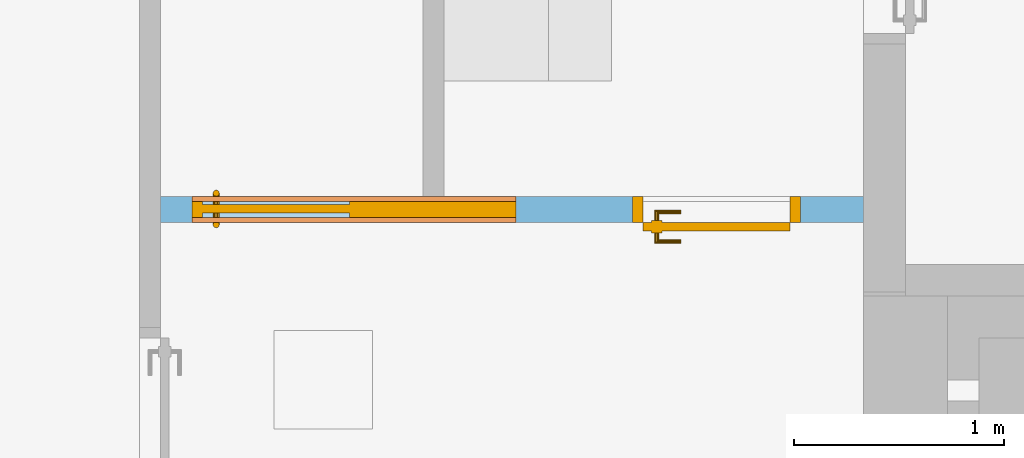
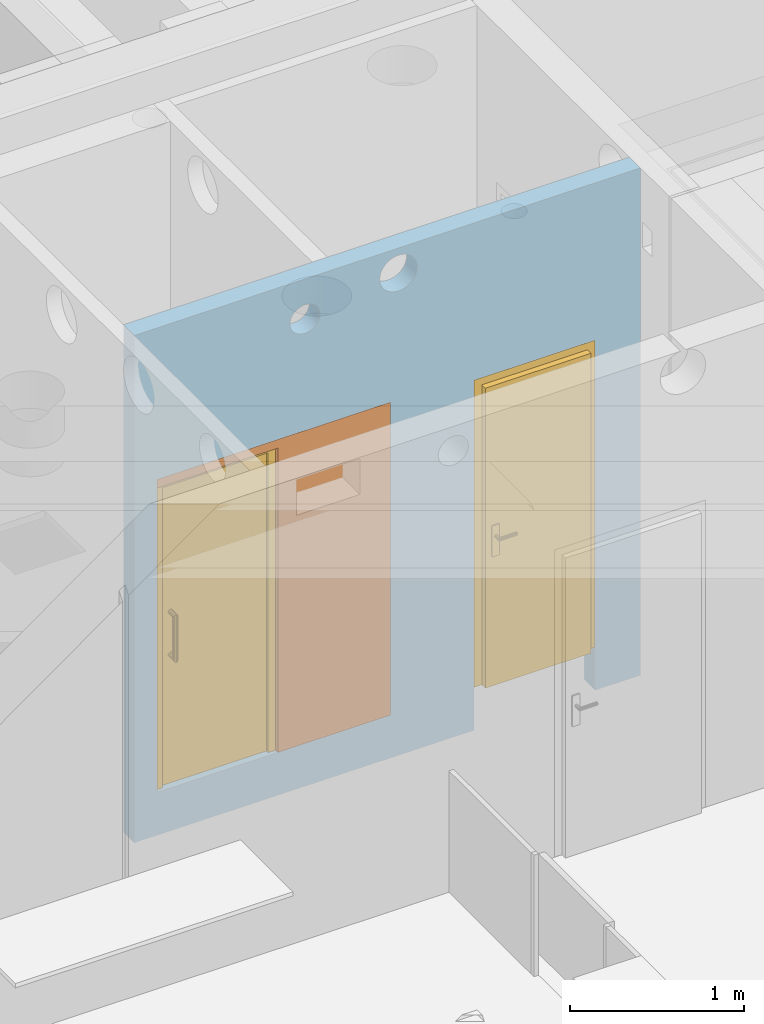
# One storey, part 72 of 140: 2 doors, 1 proxy, 4 openings, plus 1 element that does not belong to this part.
"""IFC4 building model written with IfcOpenShell, lengths in metres."""

from ifc_helpers import new_model, entity, si_unit, converted_unit, derived_unit, frame, frame_2d, origin, origin_with_axes, place, context, subcontext, project, spatial, polyline, rectangle, outline, extrude, closed_shell, open_shell, faceted_brep, surface_model, source, transform, mapped, material, layer, layer_set, layer_usage, type_object, element, fill, save


model = new_model("IFC4")

# Units and contexts
model_context = context("Model", 3, precision=1e-05, world=origin())
body_context = subcontext(model_context, "Body", "Model", "MODEL_VIEW")
ifc_project = project(units=[si_unit("LENGTHUNIT", "METRE"), si_unit("AREAUNIT", "SQUARE_METRE"), si_unit("VOLUMEUNIT", "CUBIC_METRE"), si_unit("MASSUNIT", "GRAM", prefix="KILO"), converted_unit("PLANEANGLEUNIT", "DEGREE", entity("IfcPlaneAngleMeasure", 0.0174532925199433), si_unit("PLANEANGLEUNIT", "RADIAN"), dimensions=[0, 0, 0, 0, 0, 0, 0]), derived_unit("THERMALTRANSMITTANCEUNIT", [(si_unit("POWERUNIT", "WATT"), 1), (si_unit("THERMODYNAMICTEMPERATUREUNIT", "KELVIN"), -1), (si_unit("LENGTHUNIT", "METRE"), -2)]), derived_unit("VOLUMETRICFLOWRATEUNIT", [(si_unit("LENGTHUNIT", "METRE"), 3), (converted_unit("TIMEUNIT", "hour", entity("IfcTimeMeasure", 3600.0), si_unit("TIMEUNIT", "SECOND"), dimensions=[0, 0, 1, 0, 0, 0, 0]), -1), (si_unit("LENGTHUNIT", "METRE"), -1)])], contexts=[model_context])

# Site, building, storey
site_placement = place(None, origin())
site = spatial("IfcSite", under=ifc_project, at=site_placement, Name="3. ASŘ", CompositionType="ELEMENT")
building_placement = place(site_placement, origin())
building = spatial("IfcBuilding", under=site, at=building_placement, Name="Pavilon C", CompositionType="ELEMENT")
storey_placement = place(building_placement, origin())
storey = spatial("IfcBuildingStorey", under=building, at=storey_placement, Name="Půdorys 1.NP", CompositionType="ELEMENT", Elevation=0.0)

# Wall, openings, doors, proxy
ifc_material_1 = material(Name="SDK - 1 KCE + DVOJITÉ OPLÁŠTĚNÍ")
ifc_layer = layer(ifc_material_1, 0.125)
ifc_layer_set = layer_set([ifc_layer])
ifc_layer_usage = layer_usage(ifc_layer_set, "AXIS2", "POSITIVE", 0.0)
wall_placement = place(storey_placement, frame((36.8, -6.325, -0.3), z_axis=(0.0, 0.0, 1.0), x_axis=(-1.0, 0.0, 0.0)))
wall = element("IfcWall", 1, at=wall_placement, inside=storey, material=ifc_layer_usage, Name="SDK - 1 KCE + DVOJITÉ OPLÁŠTĚNÍ", context=body_context, shape_type="SweptSolid", body=[
    extrude(rectangle(XDim=3.35, YDim=0.125, at=frame_2d((1.675, 0.0625), x_axis=(1.0, 0.0))), origin_with_axes(), (0.0, 0.0, 1.0), 3.55),
])
opening_1_placement = place(wall_placement, frame((1.1, 0.125, 0.0), z_axis=(0.0, -1.0, 0.0), x_axis=(0.0, 0.0, 1.0)))
opening_1 = element("IfcOpeningElement", 2, at=opening_1_placement, cuts=wall, Name="Dveřní otvor", ObjectType="Opening", context=body_context, shape_type="SweptSolid", body=[
    extrude(outline(polyline([(0.0, 0.8), (2.45, 0.8), (2.45, 0.0), (0.0, 0.0), (0.0, 0.8)])), origin_with_axes(), (0.0, 0.0, 1.0), 0.125),
])
opening_2_placement = place(wall_placement, frame((3.2, 0.125, 0.3), z_axis=(0.0, -1.0, 0.0), x_axis=(0.0, 0.0, 1.0)))
opening_2 = element("IfcOpeningElement", 3, at=opening_2_placement, cuts=wall, Name="Dveřní otvor", ObjectType="Opening", context=body_context, shape_type="SweptSolid", body=[
    extrude(outline(polyline([(0.0, 1.545), (2.19, 1.545), (2.19, 0.0), (0.0, 0.0), (0.0, 1.545)])), origin_with_axes(), (0.0, 0.0, 1.0), 0.125),
])
opening_3_placement = place(wall_placement, frame((2.32, 0.125, 3.17), z_axis=(0.0, -1.0, 0.0), x_axis=(0.0, 0.0, 1.0)))
element("IfcOpeningElement", 4, at=opening_3_placement, cuts=wall, Name="ZTI", ObjectType="Opening", context=body_context, shape_type="SweptSolid", body=[
    extrude(outline(polyline([(0.1, 0.0), (0.0895471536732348, 0.000547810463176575), (0.0792088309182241, 0.00218523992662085), (0.0690983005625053, 0.00489434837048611), (0.0593263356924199, 0.00864545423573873), (0.05, 0.0133974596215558), (0.0412214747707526, 0.0190983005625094), (0.0330869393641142, 0.025685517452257), (0.0256855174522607, 0.0330869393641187), (0.0190983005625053, 0.0412214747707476), (0.0133974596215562, 0.05), (0.00864545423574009, 0.0593263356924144), (0.00489434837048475, 0.0690983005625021), (0.00218523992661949, 0.0792088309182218), (0.000547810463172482, 0.0895471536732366), (0.0, 0.1), (0.000547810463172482, 0.110452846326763), (0.00218523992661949, 0.120791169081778), (0.00489434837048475, 0.130901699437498), (0.00864545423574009, 0.140673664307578), (0.0133974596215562, 0.15), (0.0190983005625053, 0.158778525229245), (0.0256855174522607, 0.166913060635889), (0.0330869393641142, 0.174314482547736), (0.0412214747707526, 0.180901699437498), (0.05, 0.186602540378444), (0.0593263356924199, 0.191354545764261), (0.0690983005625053, 0.195105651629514), (0.0792088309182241, 0.197814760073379), (0.0895471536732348, 0.199452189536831), (0.1, 0.2), (0.110452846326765, 0.199452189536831), (0.120791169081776, 0.197814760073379), (0.130901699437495, 0.195105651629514), (0.14067366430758, 0.191354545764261), (0.15, 0.186602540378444), (0.158778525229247, 0.180901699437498), (0.166913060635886, 0.174314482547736), (0.174314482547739, 0.166913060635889), (0.180901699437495, 0.158778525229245), (0.186602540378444, 0.15), (0.19135454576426, 0.140673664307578), (0.195105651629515, 0.130901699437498), (0.197814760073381, 0.120791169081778), (0.199452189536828, 0.110452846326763), (0.2, 0.1), (0.199452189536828, 0.0895471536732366), (0.197814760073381, 0.0792088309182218), (0.195105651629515, 0.0690983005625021), (0.19135454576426, 0.0593263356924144), (0.186602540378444, 0.05), (0.180901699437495, 0.0412214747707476), (0.174314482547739, 0.0330869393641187), (0.166913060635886, 0.025685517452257), (0.158778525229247, 0.0190983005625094), (0.15, 0.0133974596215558), (0.14067366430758, 0.00864545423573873), (0.130901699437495, 0.00489434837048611), (0.120791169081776, 0.00218523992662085), (0.110452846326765, 0.000547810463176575), (0.1, 0.0)])), origin_with_axes(), (0.0, 0.0, 1.0), 0.125),
])
opening_4_placement = place(wall_placement, frame((1.72567356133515, 0.125, 3.25), z_axis=(0.0, -1.0, 0.0), x_axis=(0.0, 0.0, 1.0)))
element("IfcOpeningElement", 5, at=opening_4_placement, cuts=wall, Name="VZT", ObjectType="Opening", context=body_context, shape_type="SweptSolid", body=[
    extrude(outline(polyline([(0.125, 0.0), (0.111933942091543, 0.000684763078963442), (0.09901103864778, 0.00273154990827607), (0.0863728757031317, 0.00611793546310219), (0.0741579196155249, 0.010806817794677), (0.0625, 0.0167468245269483), (0.0515268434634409, 0.0238728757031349), (0.041358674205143, 0.0321068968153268), (0.0321068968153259, 0.0413586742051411), (0.0238728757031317, 0.0515268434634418), (0.0167468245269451, 0.0625), (0.0108068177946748, 0.0741579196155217), (0.00611793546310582, 0.0863728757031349), (0.00273154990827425, 0.0990110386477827), (0.000684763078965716, 0.111933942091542), (0.0, 0.125), (0.000684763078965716, 0.138066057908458), (0.00273154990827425, 0.150988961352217), (0.00611793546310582, 0.163627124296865), (0.0108068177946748, 0.175842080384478), (0.0167468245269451, 0.1875), (0.0238728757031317, 0.198473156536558), (0.0321068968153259, 0.208641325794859), (0.0413586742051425, 0.217893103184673), (0.0515268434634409, 0.226127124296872), (0.0625, 0.233253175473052), (0.0741579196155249, 0.239193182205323), (0.0863728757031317, 0.243882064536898), (0.09901103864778, 0.247268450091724), (0.111933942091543, 0.249315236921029), (0.125, 0.25), (0.138066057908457, 0.249315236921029), (0.15098896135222, 0.247268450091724), (0.163627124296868, 0.243882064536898), (0.175842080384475, 0.239193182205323), (0.1875, 0.233253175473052), (0.198473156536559, 0.226127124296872), (0.208641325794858, 0.217893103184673), (0.217893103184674, 0.208641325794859), (0.226127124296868, 0.198473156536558), (0.233253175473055, 0.1875), (0.239193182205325, 0.175842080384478), (0.243882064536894, 0.163627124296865), (0.247268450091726, 0.150988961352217), (0.249315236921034, 0.138066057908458), (0.25, 0.125), (0.249315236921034, 0.111933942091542), (0.247268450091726, 0.0990110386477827), (0.243882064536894, 0.0863728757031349), (0.239193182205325, 0.0741579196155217), (0.233253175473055, 0.0625), (0.226127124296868, 0.0515268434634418), (0.217893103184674, 0.0413586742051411), (0.208641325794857, 0.0321068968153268), (0.198473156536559, 0.0238728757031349), (0.1875, 0.0167468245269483), (0.175842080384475, 0.010806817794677), (0.163627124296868, 0.00611793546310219), (0.15098896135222, 0.00273154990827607), (0.138066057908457, 0.000684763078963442), (0.125, 0.0)])), origin_with_axes(), (0.0, 0.0, 1.0), 0.125),
])
door_type_1 = type_object("IfcDoorType", Name="II.D03", OperationType="NOTDEFINED", ParameterTakesPrecedence=False, PredefinedType="DOOR")
shared_shape_1 = source(origin_with_axes(), body_context, "Body", "SurfaceModel", [
    surface_model("IfcShellBasedSurfaceModel", [(0.0, 0.125, 2.149), (0.0, 0.125, -5.6843418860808e-17), (0.05, 0.125, -5.6843418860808e-17), (0.05, 0.125, 2.149), (0.0, 0.0, -5.6843418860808e-17), (0.0, 2.70006239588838e-16, 2.149), (0.05, 2.70006239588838e-16, 2.149), (0.05, 0.0, -5.6843418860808e-17)], [closed_shell([[[0, 1, 2, 3]], [[4, 5, 6, 7]], [[1, 0, 5, 4]], [[2, 1, 4, 7]], [[3, 2, 7, 6]], [[0, 3, 6, 5]]], orient=[[False], [False], [False], [False], [False], [False]])]),
    surface_model("IfcShellBasedSurfaceModel", [(0.75, 0.125, 2.149), (0.75, 0.125, -5.6843418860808e-17), (0.8, 0.125, -5.6843418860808e-17), (0.8, 0.125, 2.149), (0.75, 0.0, -5.6843418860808e-17), (0.75, 2.70006239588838e-16, 2.149), (0.8, 2.70006239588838e-16, 2.149), (0.8, 0.0, -5.6843418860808e-17)], [closed_shell([[[0, 1, 2, 3]], [[4, 5, 6, 7]], [[1, 0, 5, 4]], [[2, 1, 4, 7]], [[3, 2, 7, 6]], [[0, 3, 6, 5]]], orient=[[False], [False], [False], [False], [False], [False]])]),
    surface_model("IfcShellBasedSurfaceModel", [(0.05, 0.125, 2.149), (0.05, 0.125, 2.099), (0.75, 0.125, 2.099), (0.75, 0.125, 2.149), (0.05, 2.55795384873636e-16, 2.099), (0.05, 2.55795384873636e-16, 2.149), (0.75, 2.55795384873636e-16, 2.149), (0.75, 2.55795384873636e-16, 2.099)], [closed_shell([[[0, 1, 2, 3]], [[4, 5, 6, 7]], [[1, 0, 5, 4]], [[2, 1, 4, 7]], [[3, 2, 7, 6]], [[0, 3, 6, 5]]], orient=[[False], [False], [False], [False], [False], [False]])]),
    surface_model("IfcShellBasedSurfaceModel", [(0.05, 0.165, 2.099), (0.05, 0.165, -5.6843418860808e-17), (0.75, 0.165, -5.6843418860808e-17), (0.75, 0.165, 2.099), (0.05, 0.125, -5.6843418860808e-17), (0.05, 0.125, 2.099), (0.75, 0.125, 2.099), (0.75, 0.125, -5.6843418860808e-17)], [closed_shell([[[0, 1, 2, 3]], [[4, 5, 6, 7]], [[1, 0, 5, 4]], [[2, 1, 4, 7]], [[3, 2, 7, 6]], [[0, 3, 6, 5]]], orient=[[False], [False], [False], [False], [False], [False]])]),
    surface_model("IfcShellBasedSurfaceModel", [(0.66, 0.125, 1.125), (0.66, 0.125, 0.91), (0.71, 0.125, 0.91), (0.71, 0.125, 1.125), (0.66, 0.115, 0.91), (0.66, 0.115, 1.125), (0.71, 0.115, 1.125), (0.71, 0.115, 0.91)], [closed_shell([[[0, 1, 2, 3]], [[4, 5, 6, 7]], [[1, 0, 5, 4]], [[2, 1, 4, 7]], [[3, 2, 7, 6]], [[0, 3, 6, 5]]], orient=[[False], [False], [False], [False], [False], [False]])]),
    surface_model("IfcShellBasedSurfaceModel", [(0.685, 0.115, 1.06), (0.68, 0.115, 1.05866025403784), (0.676339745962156, 0.115, 1.055), (0.675, 0.115, 1.05), (0.676339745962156, 0.115, 1.045), (0.68, 0.115, 1.04133974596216), (0.685, 0.115, 1.04), (0.69, 0.115, 1.04133974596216), (0.693660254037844, 0.115, 1.045), (0.695, 0.115, 1.05), (0.693660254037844, 0.115, 1.055), (0.69, 0.115, 1.05866025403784), (0.69, 0.0700000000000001, 1.05866025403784), (0.685, 0.0750000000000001, 1.06), (0.693660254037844, 0.0663397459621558, 1.055), (0.695, 0.0650000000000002, 1.05), (0.693660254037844, 0.0663397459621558, 1.045), (0.69, 0.0700000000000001, 1.04133974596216), (0.685, 0.0750000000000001, 1.04), (0.68, 0.0800000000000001, 1.04133974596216), (0.676339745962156, 0.0836602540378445, 1.045), (0.675, 0.0850000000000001, 1.05), (0.676339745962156, 0.0836602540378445, 1.055), (0.68, 0.0800000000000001, 1.05866025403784), (0.57, 0.0700000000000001, 1.05866025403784), (0.57, 0.0750000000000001, 1.06), (0.57, 0.0663397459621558, 1.055), (0.57, 0.0650000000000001, 1.05), (0.57, 0.0663397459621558, 1.045), (0.57, 0.0700000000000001, 1.04133974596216), (0.57, 0.0750000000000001, 1.04), (0.57, 0.0800000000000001, 1.04133974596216), (0.57, 0.0836602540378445, 1.045), (0.57, 0.0850000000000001, 1.05), (0.57, 0.0836602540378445, 1.055), (0.57, 0.0800000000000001, 1.05866025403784)], [open_shell([[[0, 1, 2, 3, 4, 5, 6, 7, 8, 9, 10, 11]], [[0, 11, 12, 13]], [[11, 10, 14, 12]], [[10, 9, 15, 14]], [[9, 8, 16, 15]], [[8, 7, 17, 16]], [[7, 6, 18, 17]], [[6, 5, 19, 18]], [[5, 4, 20, 19]], [[4, 3, 21, 20]], [[3, 2, 22, 21]], [[2, 1, 23, 22]], [[1, 0, 13, 23]], [[13, 12, 24, 25]], [[12, 14, 26, 24]], [[14, 15, 27, 26]], [[15, 16, 28, 27]], [[16, 17, 29, 28]], [[17, 18, 30, 29]], [[18, 19, 31, 30]], [[19, 20, 32, 31]], [[20, 21, 33, 32]], [[21, 22, 34, 33]], [[22, 23, 35, 34]], [[23, 13, 25, 35]]], orient=[[False], [False], [False], [False], [False], [False], [False], [False], [False], [False], [False], [False], [False], [False], [False], [False], [False], [False], [False], [False], [False], [False], [False], [False], [False]])]),
    surface_model("IfcShellBasedSurfaceModel", [(0.66, 0.165, 1.125), (0.71, 0.165, 1.125), (0.71, 0.165, 0.91), (0.66, 0.165, 0.91), (0.66, 0.175, 0.91), (0.71, 0.175, 0.91), (0.71, 0.175, 1.125), (0.66, 0.175, 1.125)], [closed_shell([[[0, 1, 2, 3]], [[4, 5, 6, 7]], [[3, 4, 7, 0]], [[2, 5, 4, 3]], [[1, 6, 5, 2]], [[0, 7, 6, 1]]], orient=[[False], [False], [False], [False], [False], [False]])]),
    surface_model("IfcShellBasedSurfaceModel", [(0.685, 0.175, 1.06), (0.69, 0.175, 1.05866025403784), (0.693660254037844, 0.175, 1.055), (0.695, 0.175, 1.05), (0.693660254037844, 0.175, 1.045), (0.69, 0.175, 1.04133974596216), (0.685, 0.175, 1.04), (0.68, 0.175, 1.04133974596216), (0.676339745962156, 0.175, 1.045), (0.675, 0.175, 1.05), (0.676339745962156, 0.175, 1.055), (0.68, 0.175, 1.05866025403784), (0.685, 0.215, 1.06), (0.69, 0.22, 1.05866025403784), (0.693660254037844, 0.223660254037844, 1.055), (0.695, 0.225, 1.05), (0.693660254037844, 0.223660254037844, 1.045), (0.69, 0.22, 1.04133974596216), (0.685, 0.215, 1.04), (0.68, 0.21, 1.04133974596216), (0.676339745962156, 0.206339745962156, 1.045), (0.675, 0.205, 1.05), (0.676339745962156, 0.206339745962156, 1.055), (0.68, 0.21, 1.05866025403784), (0.57, 0.215, 1.06), (0.57, 0.22, 1.05866025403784), (0.57, 0.223660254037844, 1.055), (0.57, 0.225, 1.05), (0.57, 0.223660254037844, 1.045), (0.57, 0.22, 1.04133974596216), (0.57, 0.215, 1.04), (0.57, 0.21, 1.04133974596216), (0.57, 0.206339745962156, 1.045), (0.57, 0.205, 1.05), (0.57, 0.206339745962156, 1.055), (0.57, 0.21, 1.05866025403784)], [open_shell([[[0, 1, 2, 3, 4, 5, 6, 7, 8, 9, 10, 11]], [[0, 12, 13, 1]], [[1, 13, 14, 2]], [[2, 14, 15, 3]], [[3, 15, 16, 4]], [[4, 16, 17, 5]], [[5, 17, 18, 6]], [[6, 18, 19, 7]], [[7, 19, 20, 8]], [[8, 20, 21, 9]], [[9, 21, 22, 10]], [[10, 22, 23, 11]], [[11, 23, 12, 0]], [[12, 24, 25, 13]], [[13, 25, 26, 14]], [[14, 26, 27, 15]], [[15, 27, 28, 16]], [[16, 28, 29, 17]], [[17, 29, 30, 18]], [[18, 30, 31, 19]], [[19, 31, 32, 20]], [[20, 32, 33, 21]], [[21, 33, 34, 22]], [[22, 34, 35, 23]], [[23, 35, 24, 12]]], orient=[[False], [False], [False], [False], [False], [False], [False], [False], [False], [False], [False], [False], [False], [False], [False], [False], [False], [False], [False], [False], [False], [False], [False], [False], [False]])]),
])
door_1_placement = place(opening_1_placement, frame((0.301, 0.8, 0.125), z_axis=(1.0, 0.0, 0.0), x_axis=(0.0, -1.0, 1.22464679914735e-16)))
door_1 = element("IfcDoor", 6, at=door_1_placement, inside=storey, type_object=door_type_1, Name="II.D03", OverallHeight=2.45, OverallWidth=0.8, context=body_context, shape_type="MappedRepresentation", body=[
    mapped(shared_shape_1, transform((0.0, 0.0, 0.0), x_axis=(1.0, 0.0, 0.0), y_axis=(0.0, 1.0, 0.0), z_axis=(0.0, 0.0, 1.0), scale=1.0)),
])
fill(opening_1, door_1)
door_type_2 = type_object("IfcDoorType", Name="II.DP02", OperationType="NOTDEFINED", ParameterTakesPrecedence=False, PredefinedType="DOOR")
shared_shape_2 = source(origin_with_axes(), body_context, "Body", "SurfaceModel", [
    surface_model("IfcShellBasedSurfaceModel", [(0.0, 0.13, 2.19), (0.0, 0.13, -4.59242549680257e-18), (0.795, 0.13, -4.59242549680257e-18), (0.795, 0.13, 2.19), (0.0, 0.0549999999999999, 4.59242549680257e-18), (0.0, 0.0550000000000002, 2.19), (0.795, 0.0550000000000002, 2.19), (0.795, 0.0549999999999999, 4.59242549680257e-18)], [closed_shell([[[0, 1, 2, 3]], [[4, 5, 6, 7]], [[1, 0, 5, 4]], [[2, 1, 4, 7]], [[3, 2, 7, 6]], [[0, 3, 6, 5]]], orient=[[False], [False], [False], [False], [False], [False]])]),
    surface_model("IfcShellBasedSurfaceModel", [(1.495, 0.13, 2.19), (1.495, 0.13, -4.59242549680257e-18), (1.545, 0.13, -4.59242549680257e-18), (1.545, 0.13, 2.19), (1.495, 0.0549999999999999, 4.59242549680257e-18), (1.495, 0.0550000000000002, 2.19), (1.545, 0.0550000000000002, 2.19), (1.545, 0.0549999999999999, 4.59242549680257e-18)], [closed_shell([[[0, 1, 2, 3]], [[4, 5, 6, 7]], [[1, 0, 5, 4]], [[2, 1, 4, 7]], [[3, 2, 7, 6]], [[0, 3, 6, 5]]], orient=[[False], [False], [False], [False], [False], [False]])]),
    surface_model("IfcShellBasedSurfaceModel", [(0.795, 0.13, 2.19), (0.795, 0.13, 2.1), (1.495, 0.13, 2.1), (1.495, 0.13, 2.19), (0.795, 0.0550000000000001, 2.1), (0.795, 0.0550000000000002, 2.19), (1.495, 0.0550000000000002, 2.19), (1.495, 0.0550000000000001, 2.1)], [closed_shell([[[0, 1, 2, 3]], [[4, 5, 6, 7]], [[1, 0, 5, 4]], [[2, 1, 4, 7]], [[3, 2, 7, 6]], [[0, 3, 6, 5]]], orient=[[False], [False], [False], [False], [False], [False]])]),
    surface_model("IfcShellBasedSurfaceModel", [(0.795, 0.11, 2.1), (0.795, 0.11, -2.14313189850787e-18), (1.495, 0.11, -2.14313189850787e-18), (1.495, 0.11, 2.1), (0.795, 0.0699999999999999, 2.75545529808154e-18), (0.795, 0.0700000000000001, 2.1), (1.495, 0.0700000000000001, 2.1), (1.495, 0.0699999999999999, 2.75545529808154e-18)], [closed_shell([[[0, 1, 2, 3]], [[4, 5, 6, 7]], [[1, 0, 5, 4]], [[2, 1, 4, 7]], [[3, 2, 7, 6]], [[0, 3, 6, 5]]], orient=[[False], [False], [False], [False], [False], [False]])]),
    surface_model("IfcShellBasedSurfaceModel", [(1.445, 0.07, 1.2), (1.44299038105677, 0.07, 1.2075), (1.4375, 0.07, 1.21299038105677), (1.43, 0.07, 1.215), (1.4225, 0.07, 1.21299038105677), (1.41700961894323, 0.07, 1.2075), (1.415, 0.07, 1.2), (1.41700961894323, 0.07, 1.1925), (1.4225, 0.07, 1.18700961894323), (1.43, 0.07, 1.185), (1.4375, 0.07, 1.18700961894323), (1.44299038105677, 0.07, 1.1925), (1.445, 0.015, 1.2), (1.44299038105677, 0.00750000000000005, 1.2075), (1.4375, 0.00200961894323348, 1.21299038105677), (1.43, 5.6843418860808e-17, 1.215), (1.4225, 0.00200961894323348, 1.21299038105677), (1.41700961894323, 0.00750000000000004, 1.2075), (1.415, 0.015, 1.2), (1.41700961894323, 0.0225, 1.1925), (1.4225, 0.0279903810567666, 1.18700961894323), (1.43, 0.03, 1.185), (1.4375, 0.0279903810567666, 1.18700961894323), (1.44299038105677, 0.0225000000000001, 1.1925), (1.445, 0.015, 0.9), (1.44299038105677, 0.0075, 0.8925), (1.4375, 0.00200961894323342, 0.887009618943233), (1.43, 0.0, 0.885), (1.4225, 0.00200961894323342, 0.887009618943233), (1.41700961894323, 0.00749999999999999, 0.8925), (1.415, 0.015, 0.9), (1.41700961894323, 0.0225, 0.9075), (1.4225, 0.0279903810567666, 0.912990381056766), (1.43, 0.03, 0.915), (1.4375, 0.0279903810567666, 0.912990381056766), (1.44299038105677, 0.0225, 0.9075), (1.445, 0.07, 0.9), (1.44299038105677, 0.07, 0.8925), (1.4375, 0.07, 0.887009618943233), (1.43, 0.07, 0.885), (1.4225, 0.07, 0.887009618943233), (1.41700961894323, 0.07, 0.8925), (1.415, 0.07, 0.9), (1.41700961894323, 0.07, 0.9075), (1.4225, 0.07, 0.912990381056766), (1.43, 0.07, 0.915), (1.4375, 0.07, 0.912990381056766), (1.44299038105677, 0.07, 0.9075)], [open_shell([[[0, 1, 2, 3, 4, 5, 6, 7, 8, 9, 10, 11]], [[0, 12, 13, 1]], [[1, 13, 14, 2]], [[2, 14, 15, 3]], [[3, 15, 16, 4]], [[4, 16, 17, 5]], [[5, 17, 18, 6]], [[6, 18, 19, 7]], [[7, 19, 20, 8]], [[8, 20, 21, 9]], [[9, 21, 22, 10]], [[10, 22, 23, 11]], [[11, 23, 12, 0]], [[12, 24, 25, 13]], [[13, 25, 26, 14]], [[14, 26, 27, 15]], [[15, 27, 28, 16]], [[16, 28, 29, 17]], [[17, 29, 30, 18]], [[18, 30, 31, 19]], [[19, 31, 32, 20]], [[20, 32, 33, 21]], [[21, 33, 34, 22]], [[22, 34, 35, 23]], [[23, 35, 24, 12]], [[24, 36, 37, 25]], [[25, 37, 38, 26]], [[26, 38, 39, 27]], [[27, 39, 40, 28]], [[28, 40, 41, 29]], [[29, 41, 42, 30]], [[30, 42, 43, 31]], [[31, 43, 44, 32]], [[32, 44, 45, 33]], [[33, 45, 46, 34]], [[34, 46, 47, 35]], [[35, 47, 36, 24]]], orient=[[False], [False], [False], [False], [False], [False], [False], [False], [False], [False], [False], [False], [False], [False], [False], [False], [False], [False], [False], [False], [False], [False], [False], [False], [False], [False], [False], [False], [False], [False], [False], [False], [False], [False], [False], [False], [False]])]),
    surface_model("IfcShellBasedSurfaceModel", [(1.445, 0.11, 1.2), (1.44299038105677, 0.11, 1.1925), (1.4375, 0.11, 1.18700961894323), (1.43, 0.11, 1.185), (1.4225, 0.11, 1.18700961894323), (1.41700961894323, 0.11, 1.1925), (1.415, 0.11, 1.2), (1.41700961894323, 0.11, 1.2075), (1.4225, 0.11, 1.21299038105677), (1.43, 0.11, 1.215), (1.4375, 0.11, 1.21299038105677), (1.44299038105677, 0.11, 1.2075), (1.44299038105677, 0.1725, 1.2075), (1.445, 0.165, 1.2), (1.4375, 0.177990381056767, 1.21299038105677), (1.43, 0.18, 1.215), (1.4225, 0.177990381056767, 1.21299038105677), (1.41700961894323, 0.1725, 1.2075), (1.415, 0.165, 1.2), (1.41700961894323, 0.1575, 1.1925), (1.4225, 0.152009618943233, 1.18700961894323), (1.43, 0.15, 1.185), (1.4375, 0.152009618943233, 1.18700961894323), (1.44299038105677, 0.1575, 1.1925), (1.44299038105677, 0.1725, 0.8925), (1.445, 0.165, 0.9), (1.4375, 0.177990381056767, 0.887009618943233), (1.43, 0.18, 0.885), (1.4225, 0.177990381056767, 0.887009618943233), (1.41700961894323, 0.1725, 0.8925), (1.415, 0.165, 0.9), (1.41700961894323, 0.1575, 0.9075), (1.4225, 0.152009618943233, 0.912990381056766), (1.43, 0.15, 0.915), (1.4375, 0.152009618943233, 0.912990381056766), (1.44299038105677, 0.1575, 0.9075), (1.44299038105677, 0.11, 0.8925), (1.445, 0.11, 0.9), (1.4375, 0.11, 0.887009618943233), (1.43, 0.11, 0.885), (1.4225, 0.11, 0.887009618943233), (1.41700961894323, 0.11, 0.8925), (1.415, 0.11, 0.9), (1.41700961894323, 0.11, 0.9075), (1.4225, 0.11, 0.912990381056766), (1.43, 0.11, 0.915), (1.4375, 0.11, 0.912990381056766), (1.44299038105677, 0.11, 0.9075)], [open_shell([[[0, 1, 2, 3, 4, 5, 6, 7, 8, 9, 10, 11]], [[0, 11, 12, 13]], [[11, 10, 14, 12]], [[10, 9, 15, 14]], [[9, 8, 16, 15]], [[8, 7, 17, 16]], [[7, 6, 18, 17]], [[6, 5, 19, 18]], [[5, 4, 20, 19]], [[4, 3, 21, 20]], [[3, 2, 22, 21]], [[2, 1, 23, 22]], [[1, 0, 13, 23]], [[13, 12, 24, 25]], [[12, 14, 26, 24]], [[14, 15, 27, 26]], [[15, 16, 28, 27]], [[16, 17, 29, 28]], [[17, 18, 30, 29]], [[18, 19, 31, 30]], [[19, 20, 32, 31]], [[20, 21, 33, 32]], [[21, 22, 34, 33]], [[22, 23, 35, 34]], [[23, 13, 25, 35]], [[25, 24, 36, 37]], [[24, 26, 38, 36]], [[26, 27, 39, 38]], [[27, 28, 40, 39]], [[28, 29, 41, 40]], [[29, 30, 42, 41]], [[30, 31, 43, 42]], [[31, 32, 44, 43]], [[32, 33, 45, 44]], [[33, 34, 46, 45]], [[34, 35, 47, 46]], [[35, 25, 37, 47]]], orient=[[False], [False], [False], [False], [False], [False], [False], [False], [False], [False], [False], [False], [False], [False], [False], [False], [False], [False], [False], [False], [False], [False], [False], [False], [False], [False], [False], [False], [False], [False], [False], [False], [False], [False], [False], [False], [False]])]),
])
door_2_placement = place(opening_2_placement, frame((0.0, 1.545, 0.155), z_axis=(1.0, 0.0, 0.0), x_axis=(0.0, -1.0, 1.22464679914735e-16)))
door_2 = element("IfcDoor", 7, at=door_2_placement, inside=storey, type_object=door_type_2, Name="II.DP02", OverallHeight=2.19, OverallWidth=1.545, context=body_context, shape_type="MappedRepresentation", body=[
    mapped(shared_shape_2, transform((0.0, 0.0, 0.0), x_axis=(1.0, 0.0, 0.0), y_axis=(0.0, 1.0, 0.0), z_axis=(0.0, 0.0, 1.0), scale=1.0)),
])
fill(opening_2, door_2)
ifc_material_2 = material(Name="SDK - 1 KCE + DVOJITÉ OPLÁŠTĚNÍ")
proxy_placement = place(opening_2_placement, origin())
proxy = element("IfcBuildingElementProxy", 8, at=proxy_placement, inside=storey, material=ifc_material_2, context=body_context, shape_type="Brep", body=[
    faceted_brep([(0.0, 0.8, 7.105427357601e-18), (0.0, 0.8, 0.025), (2.13, 0.8, 0.025), (2.13, 0.8, 7.105427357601e-18), (0.0, 1.545, 0.025), (0.0, 1.545, 7.105427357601e-18), (2.19, 1.545, 7.105427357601e-18), (2.19, 1.545, 0.025), (2.13, 0.0, 0.025), (2.19, 0.0, 0.025), (2.13, 0.0, 7.105427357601e-18), (2.19, 0.0, 7.105427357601e-18), (0.0, 1.545, 0.125), (0.0, 1.545, 0.1), (2.19, 1.545, 0.1), (2.19, 1.545, 0.125), (0.0, 0.8, 0.1), (0.0, 0.8, 0.125), (2.13, 0.8, 0.125), (2.13, 0.8, 0.1), (2.13, 0.0, 0.1), (2.19, 0.0, 0.1), (2.13, 0.0, 0.125), (2.19, 0.0, 0.125)], [[[0, 1, 2, 3]], [[4, 5, 6, 7]], [[0, 5, 4, 1]], [[8, 2, 1, 4, 7, 9]], [[10, 11, 6, 5, 0, 3]], [[10, 8, 9, 11]], [[11, 9, 7, 6]], [[8, 10, 3, 2]], [[12, 13, 14, 15]], [[16, 17, 18, 19]], [[12, 17, 16, 13]], [[20, 21, 14, 13, 16, 19]], [[20, 22, 23, 21]], [[22, 18, 17, 12, 15, 23]], [[15, 14, 21, 23]], [[19, 18, 22, 20]]], orient=[[False], [False], [False], [False], [False], [False], [False], [False], [False], [False], [False], [False], [False], [False], [False], [False]]),
])
fill(opening_2, proxy)

save(model, "model.ifc")
